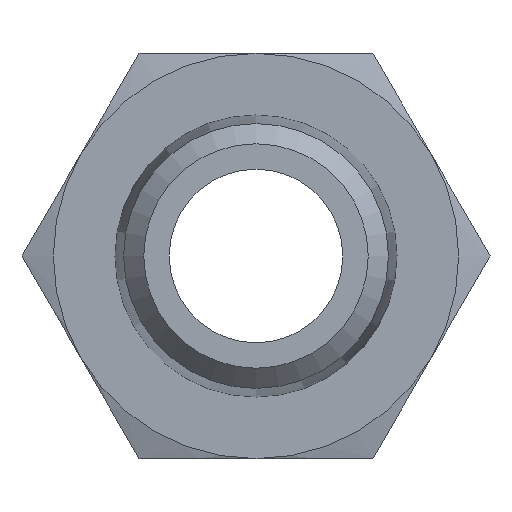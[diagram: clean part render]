
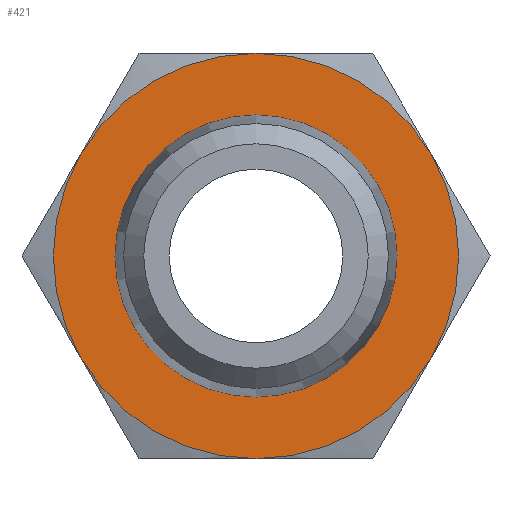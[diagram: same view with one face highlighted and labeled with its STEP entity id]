
A CAD part, left-side view. The second image highlights one B-rep face of the part: STEP entity #421.
In plain terms, the highlighted planar face has unit normal (-1, 0, 0).
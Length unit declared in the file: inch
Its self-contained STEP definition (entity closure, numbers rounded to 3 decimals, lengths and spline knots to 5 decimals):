
#38=PLANE('',#481);
#47=CIRCLE('',#453,0.2185);
#48=CIRCLE('',#455,0.2185);
#49=CIRCLE('',#457,0.2185);
#50=CIRCLE('',#459,0.2185);
#51=CIRCLE('',#461,0.2185);
#61=CIRCLE('',#480,0.15205);
#62=CIRCLE('',#482,0.2185);
#110=ORIENTED_EDGE('',*,*,#192,.F.);
#111=ORIENTED_EDGE('',*,*,#194,.F.);
#112=ORIENTED_EDGE('',*,*,#217,.F.);
#113=ORIENTED_EDGE('',*,*,#184,.F.);
#114=ORIENTED_EDGE('',*,*,#185,.F.);
#115=ORIENTED_EDGE('',*,*,#188,.F.);
#116=ORIENTED_EDGE('',*,*,#216,.T.);
#184=EDGE_CURVE('',#239,#237,#47,.T.);
#185=EDGE_CURVE('',#240,#239,#48,.T.);
#188=EDGE_CURVE('',#242,#240,#49,.T.);
#192=EDGE_CURVE('',#245,#242,#50,.T.);
#194=EDGE_CURVE('',#246,#245,#51,.T.);
#216=EDGE_CURVE('',#263,#263,#61,.T.);
#217=EDGE_CURVE('',#237,#246,#62,.T.);
#237=VERTEX_POINT('',#637);
#239=VERTEX_POINT('',#643);
#240=VERTEX_POINT('',#647);
#242=VERTEX_POINT('',#659);
#245=VERTEX_POINT('',#675);
#246=VERTEX_POINT('',#683);
#263=VERTEX_POINT('',#767);
#316=EDGE_LOOP('',(#110,#111,#112,#113,#114,#115));
#317=EDGE_LOOP('',(#116));
#362=FACE_BOUND('',#316,.T.);
#363=FACE_BOUND('',#317,.T.);
#421=ADVANCED_FACE('',(#362,#363),#38,.F.);
#453=AXIS2_PLACEMENT_3D('',#644,#513,#514);
#455=AXIS2_PLACEMENT_3D('',#646,#517,#518);
#457=AXIS2_PLACEMENT_3D('',#658,#521,#522);
#459=AXIS2_PLACEMENT_3D('',#676,#525,#526);
#461=AXIS2_PLACEMENT_3D('',#682,#529,#530);
#480=AXIS2_PLACEMENT_3D('',#766,#567,#568);
#481=AXIS2_PLACEMENT_3D('',#768,#569,#570);
#482=AXIS2_PLACEMENT_3D('',#769,#571,#572);
#513=DIRECTION('',(1.,0.,0.));
#514=DIRECTION('',(0.,0.,-1.));
#517=DIRECTION('',(1.,0.,0.));
#518=DIRECTION('',(0.,0.,-1.));
#521=DIRECTION('',(1.,0.,0.));
#522=DIRECTION('',(0.,0.,-1.));
#525=DIRECTION('',(1.,0.,0.));
#526=DIRECTION('',(0.,0.,-1.));
#529=DIRECTION('',(1.,0.,0.));
#530=DIRECTION('',(0.,0.,-1.));
#567=DIRECTION('',(1.,0.,0.));
#568=DIRECTION('',(0.,0.,-1.));
#569=DIRECTION('',(1.,0.,0.));
#570=DIRECTION('',(0.,0.,-1.));
#571=DIRECTION('',(1.,0.,0.));
#572=DIRECTION('',(0.,0.,-1.));
#637=CARTESIAN_POINT('',(0.375,-0.18923,-0.10925));
#643=CARTESIAN_POINT('',(0.375,-0.18923,0.10925));
#644=CARTESIAN_POINT('',(0.375,0.,0.));
#646=CARTESIAN_POINT('',(0.375,0.,0.));
#647=CARTESIAN_POINT('',(0.375,0.,0.2185));
#658=CARTESIAN_POINT('',(0.375,0.,0.));
#659=CARTESIAN_POINT('',(0.375,0.18923,0.10925));
#675=CARTESIAN_POINT('',(0.375,0.18923,-0.10925));
#676=CARTESIAN_POINT('',(0.375,0.,0.));
#682=CARTESIAN_POINT('',(0.375,0.,0.));
#683=CARTESIAN_POINT('',(0.375,0.,-0.2185));
#766=CARTESIAN_POINT('',(0.375,0.,0.));
#767=CARTESIAN_POINT('',(0.375,0.,-0.15205));
#768=CARTESIAN_POINT('',(0.375,0.15205,0.));
#769=CARTESIAN_POINT('',(0.375,0.,0.));
